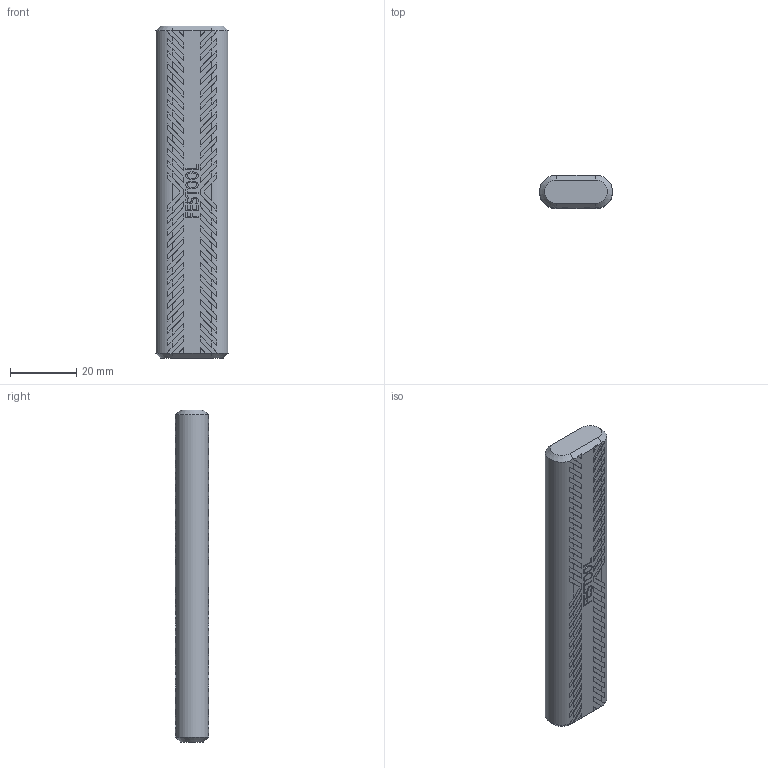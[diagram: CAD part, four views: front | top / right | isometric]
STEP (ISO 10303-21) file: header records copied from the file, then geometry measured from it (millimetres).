
FILE_DESCRIPTION(('Creo Elements/Direct Modeling STEP Export'),'2;1');
FILE_NAME('Domino_10x100.stp','2024-01-19T 8:03:31',(''),(''),'Creo Elements/Direct Modeling STEP processor for AP214 (Solid Model)','Creo Elements/Direct Modeling 20.5A 14-Oct-2022 (C) Parametric Technology GmbH','');
FILE_SCHEMA(('AUTOMOTIVE_DESIGN { 1 0 10303 214 1 1 1 1 }'));
Length unit declared in the file: millimetre
Products named in the file (1): 10x100_00479329
Bounding box: 21.96 x 10 x 100 mm (x, y, z)
Volume: 19567.1 mm3; surface area: 6189 mm2
Topology: 1 solids, 1 shells, 1028 faces, 2997 edges, 1998 vertices
Faces by surface type: plane 1022, cone 4, cylinder 2
Entity records: 32655 total; most frequent: ORIENTED_EDGE 5994, CARTESIAN_POINT 5992, DIRECTION 4907, EDGE_CURVE 2997, VECTOR 2665, LINE 2665, VERTEX_POINT 1998, AXIS2_PLACEMENT_3D 1121
